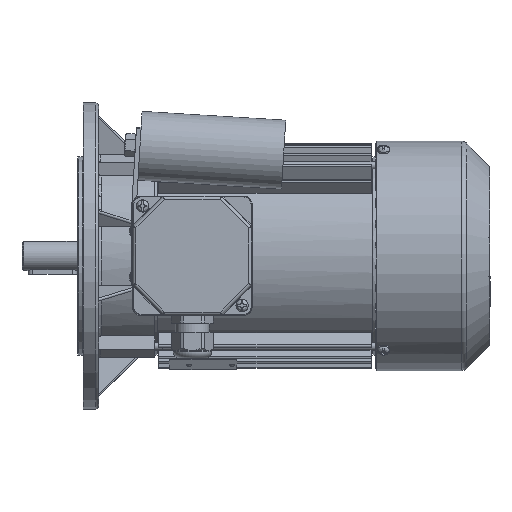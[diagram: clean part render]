
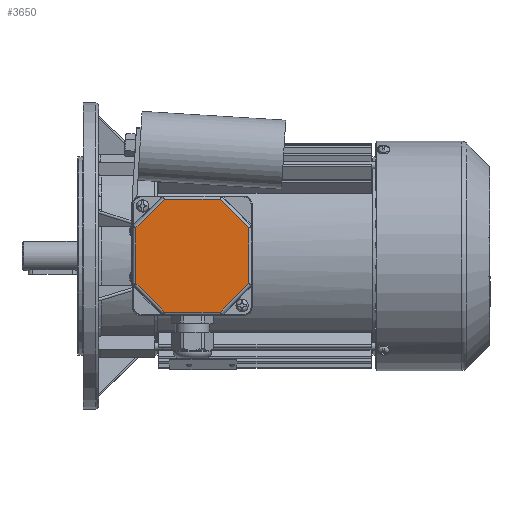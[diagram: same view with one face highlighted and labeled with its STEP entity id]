
A CAD part, top view. The second image highlights one B-rep face of the part: STEP entity #3650.
In plain terms, the highlighted planar face has unit normal (0, 0, 1).
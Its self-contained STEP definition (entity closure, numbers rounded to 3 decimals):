
#3650 = ADVANCED_FACE( '', ( #8486 ), #8487, .T. );
#8486 = FACE_OUTER_BOUND( '', #17857, .T. );
#8487 = PLANE( '', #17858 );
#17857 = EDGE_LOOP( '', ( #38197, #38198, #38199, #38200, #38201, #38202, #38203, #38204 ) );
#17858 = AXIS2_PLACEMENT_3D( '', #38205, #38206, #38207 );
#38197 = ORIENTED_EDGE( '', *, *, #56001, .T. );
#38198 = ORIENTED_EDGE( '', *, *, #56002, .T. );
#38199 = ORIENTED_EDGE( '', *, *, #56003, .T. );
#38200 = ORIENTED_EDGE( '', *, *, #56004, .T. );
#38201 = ORIENTED_EDGE( '', *, *, #55042, .T. );
#38202 = ORIENTED_EDGE( '', *, *, #56005, .T. );
#38203 = ORIENTED_EDGE( '', *, *, #56006, .T. );
#38204 = ORIENTED_EDGE( '', *, *, #55031, .T. );
#38205 = CARTESIAN_POINT( '', ( -39., 39., 12. ) );
#38206 = DIRECTION( '', ( 0., 0., 1. ) );
#38207 = DIRECTION( '', ( 1., 0., 0. ) );
#55031 = EDGE_CURVE( '', #64957, #63453, #64958, .T. );
#55042 = EDGE_CURVE( '', #64975, #64976, #64977, .F. );
#56001 = EDGE_CURVE( '', #63453, #63183, #66609, .F. );
#56002 = EDGE_CURVE( '', #63183, #66610, #66611, .T. );
#56003 = EDGE_CURVE( '', #66610, #66612, #66613, .F. );
#56004 = EDGE_CURVE( '', #66612, #64975, #66614, .T. );
#56005 = EDGE_CURVE( '', #64976, #66615, #66616, .T. );
#56006 = EDGE_CURVE( '', #66615, #64957, #66617, .F. );
#63183 = VERTEX_POINT( '', #74918 );
#63453 = VERTEX_POINT( '', #75542 );
#64957 = VERTEX_POINT( '', #79024 );
#64958 = LINE( '', #79025, #79026 );
#64975 = VERTEX_POINT( '', #79045 );
#64976 = VERTEX_POINT( '', #79046 );
#64977 = LINE( '', #79047, #79048 );
#66609 = LINE( '', #82810, #82811 );
#66610 = VERTEX_POINT( '', #82812 );
#66611 = LINE( '', #82813, #82814 );
#66612 = VERTEX_POINT( '', #82815 );
#66613 = LINE( '', #82816, #82817 );
#66614 = LINE( '', #82818, #82819 );
#66615 = VERTEX_POINT( '', #82820 );
#66616 = LINE( '', #82821, #82822 );
#66617 = LINE( '', #82823, #82824 );
#74918 = CARTESIAN_POINT( '', ( 36.825, 18.255, 12. ) );
#75542 = CARTESIAN_POINT( '', ( 36.825, -18.255, 12. ) );
#79024 = CARTESIAN_POINT( '', ( 18.255, -36.825, 12. ) );
#79025 = CARTESIAN_POINT( '', ( 37.401, -17.679, 12. ) );
#79026 = VECTOR( '', #104040, 1000. );
#79045 = CARTESIAN_POINT( '', ( -36.825, 18.255, 12. ) );
#79046 = CARTESIAN_POINT( '', ( -36.825, -18.255, 12. ) );
#79047 = CARTESIAN_POINT( '', ( -36.825, -19.069, 12. ) );
#79048 = VECTOR( '', #104058, 1000. );
#82810 = CARTESIAN_POINT( '', ( 36.825, 19.069, 12. ) );
#82811 = VECTOR( '', #105226, 1000. );
#82812 = CARTESIAN_POINT( '', ( 18.255, 36.825, 12. ) );
#82813 = CARTESIAN_POINT( '', ( 17.679, 37.401, 12. ) );
#82814 = VECTOR( '', #105227, 1000. );
#82815 = CARTESIAN_POINT( '', ( -18.255, 36.825, 12. ) );
#82816 = CARTESIAN_POINT( '', ( -19.069, 36.825, 12. ) );
#82817 = VECTOR( '', #105228, 1000. );
#82818 = CARTESIAN_POINT( '', ( -37.401, 17.679, 12. ) );
#82819 = VECTOR( '', #105229, 1000. );
#82820 = CARTESIAN_POINT( '', ( -18.255, -36.825, 12. ) );
#82821 = CARTESIAN_POINT( '', ( -17.679, -37.401, 12. ) );
#82822 = VECTOR( '', #105230, 1000. );
#82823 = CARTESIAN_POINT( '', ( 19.069, -36.825, 12. ) );
#82824 = VECTOR( '', #105231, 1000. );
#104040 = DIRECTION( '', ( 0.707, 0.707, 0. ) );
#104058 = DIRECTION( '', ( 0., 1., 0. ) );
#105226 = DIRECTION( '', ( 0., -1., 0. ) );
#105227 = DIRECTION( '', ( -0.707, 0.707, 0. ) );
#105228 = DIRECTION( '', ( 1., 0., 0. ) );
#105229 = DIRECTION( '', ( -0.707, -0.707, 0. ) );
#105230 = DIRECTION( '', ( 0.707, -0.707, 0. ) );
#105231 = DIRECTION( '', ( -1., 0., 0. ) );
